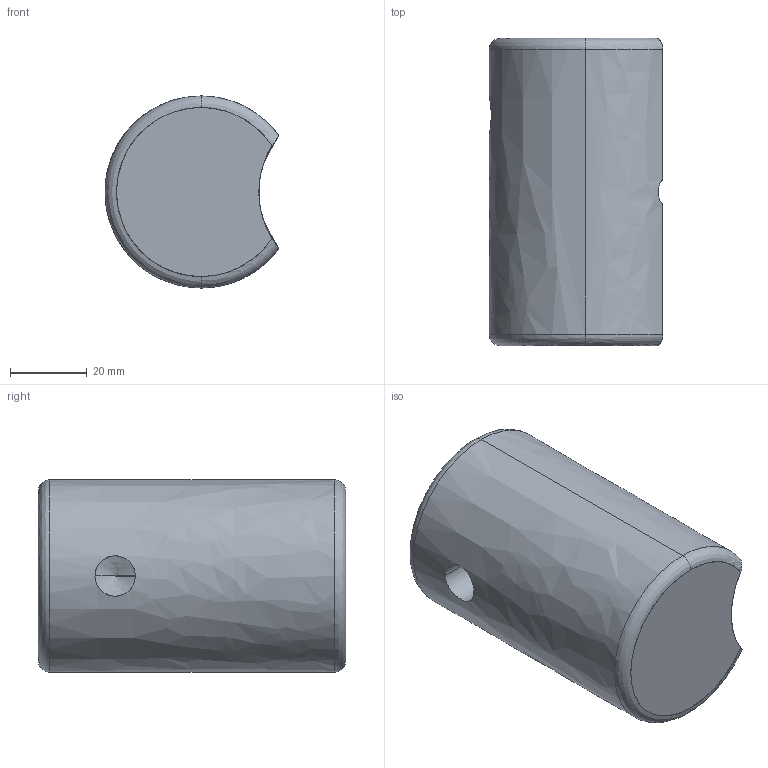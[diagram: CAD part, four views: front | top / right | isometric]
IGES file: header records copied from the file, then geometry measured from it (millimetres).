
Start section: START RECORD GO HERE.
Global section: file name: A518-3.igs; native system: DASSAULT SYSTEMES CATIA V5 R20 - www.3ds.com; preprocessor: CATIA Version 5 Release 20 ; author: Utente; organization: NB04-ASUS; date: 20200412.150140; units: millimetre
Bounding box: 45.26 x 80 x 50 mm (x, y, z)
Surface area: 16268.2 mm2 (no closed solid volume)
Topology: 0 solids, 0 shells, 18 faces, 87 edges, 85 vertices
Faces by surface type: revolution 16, extrusion 2
